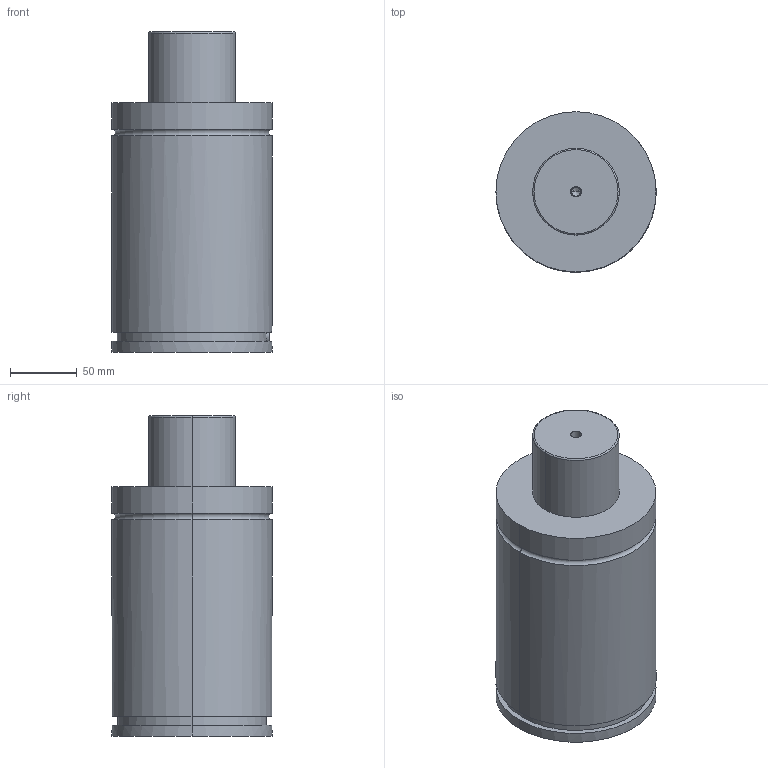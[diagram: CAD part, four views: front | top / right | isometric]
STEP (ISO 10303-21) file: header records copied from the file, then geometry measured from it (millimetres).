
FILE_DESCRIPTION(/* description */ (''),/* implementation_level */ '2;1');
FILE_NAME(/* name */ '3d_gse120-50_03867_r00.stp',/* time_stamp */ '2011-01-10T14:15:20+09:00',/* author */ ('MISUMI'),/* organization */ (''),/* preprocessor_version */ 'ST-DEVELOPER v11',/* originating_system */ 'UGS - NX 5.0',/* authorisation */ '');
FILE_SCHEMA (('CONFIG_CONTROL_DESIGN'));
Length unit declared in the file: millimetre
Products named in the file (1): 3d_gse120-50_03867_r00
Bounding box: 120 x 120 x 240 mm (x, y, z)
Volume: 2269319 mm3; surface area: 110876.5 mm2
Topology: 1 solids, 1 shells, 75 faces, 161 edges, 103 vertices
Faces by surface type: cylinder 34, plane 27, cone 10, torus 4
Entity records: 2145 total; most frequent: DIRECTION 393, CARTESIAN_POINT 360, ORIENTED_EDGE 318, AXIS2_PLACEMENT_3D 164, EDGE_CURVE 159, VERTEX_POINT 103, EDGE_LOOP 92, CIRCLE 88
